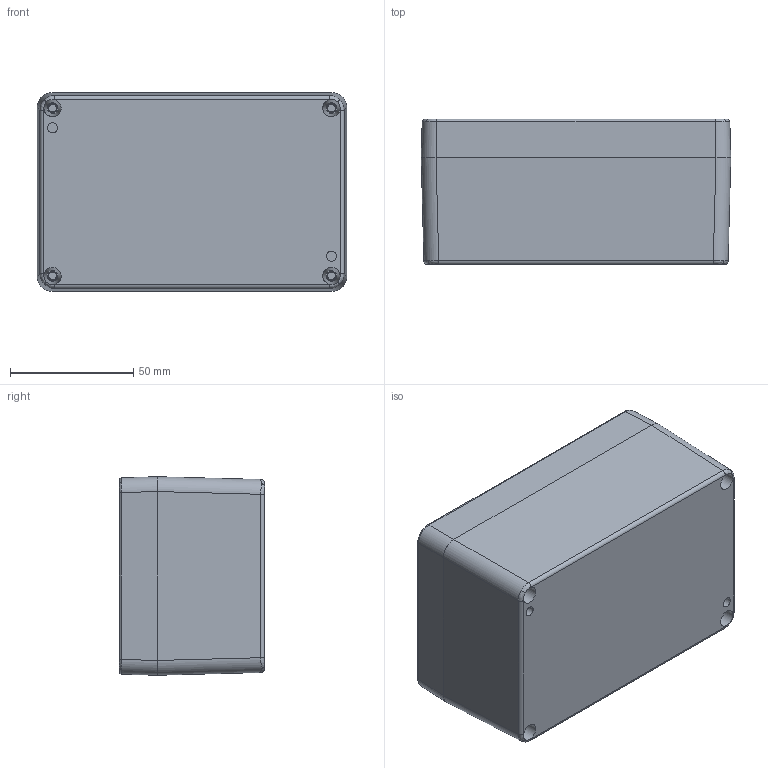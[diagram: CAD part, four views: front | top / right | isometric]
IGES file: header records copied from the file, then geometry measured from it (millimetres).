
Global section: file name: 1590Z120.iam; native system: Autodesk Inventor 2015; preprocessor: unknown; author: MBeerman; date: 20150420.084522; units: millimetre
Bounding box: 125.4 x 58.8 x 80.4 mm (x, y, z)
Volume: 199426.1 mm3; surface area: 108942.8 mm2
Topology: 8 solids, 8 shells, 1377 faces, 3597 edges, 2326 vertices
Faces by surface type: bspline 496, plane 441, revolution 288, cylinder 108, cone 44
Full cylindrical faces by diameter (mm): 3.38 x4, 3.82 x4
